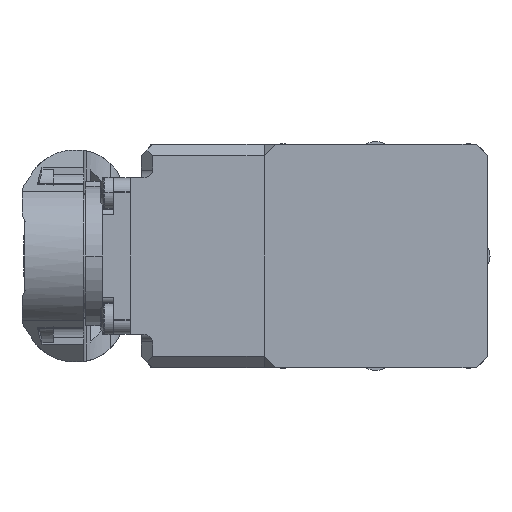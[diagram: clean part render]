
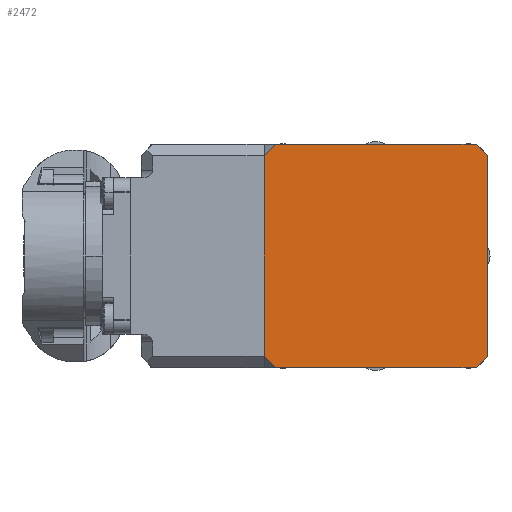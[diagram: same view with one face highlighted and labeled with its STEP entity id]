
A CAD part, left-side view. The second image highlights one B-rep face of the part: STEP entity #2472.
In plain terms, the highlighted planar face has unit normal (-1, 0, 0).
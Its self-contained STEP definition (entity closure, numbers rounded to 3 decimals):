
#438 = VECTOR ( 'NONE', #47579, 1000. ) ;
#833 = ORIENTED_EDGE ( 'NONE', *, *, #62694, .T. ) ;
#1628 = EDGE_CURVE ( 'NONE', #20351, #24766, #43758, .T. ) ;
#2150 = EDGE_LOOP ( 'NONE', ( #5546, #26509, #4052, #20456, #21874, #13051, #833, #24926 ) ) ;
#2472 = ADVANCED_FACE ( 'NONE', ( #57961 ), #41611, .T. ) ;
#4052 = ORIENTED_EDGE ( 'NONE', *, *, #35368, .T. ) ;
#4424 = CARTESIAN_POINT ( 'NONE',  ( -113., 18., -20. ) ) ;
#5546 = ORIENTED_EDGE ( 'NONE', *, *, #40684, .T. ) ;
#6773 = LINE ( 'NONE', #29017, #47453 ) ;
#7179 = VECTOR ( 'NONE', #43565, 1000. ) ;
#7868 = CARTESIAN_POINT ( 'NONE',  ( -113., -18., -20. ) ) ;
#8693 = DIRECTION ( 'NONE',  ( 0., 0.707, 0.707 ) ) ;
#8789 = LINE ( 'NONE', #7868, #7179 ) ;
#9310 = LINE ( 'NONE', #20821, #22885 ) ;
#9983 = CARTESIAN_POINT ( 'NONE',  ( -113., 20., 18. ) ) ;
#11034 = DIRECTION ( 'NONE',  ( -1., 0., 0. ) ) ;
#12753 = VECTOR ( 'NONE', #65816, 1000. ) ;
#13051 = ORIENTED_EDGE ( 'NONE', *, *, #30282, .T. ) ;
#13993 = LINE ( 'NONE', #62831, #438 ) ;
#15026 = CARTESIAN_POINT ( 'NONE',  ( -113., 20., -18. ) ) ;
#18052 = LINE ( 'NONE', #26932, #43618 ) ;
#19611 = CARTESIAN_POINT ( 'NONE',  ( -113., -18., 20. ) ) ;
#20054 = CARTESIAN_POINT ( 'NONE',  ( -113., 18., -20. ) ) ;
#20351 = VERTEX_POINT ( 'NONE', #36570 ) ;
#20456 = ORIENTED_EDGE ( 'NONE', *, *, #38103, .T. ) ;
#20821 = CARTESIAN_POINT ( 'NONE',  ( -113., 20., 18. ) ) ;
#21058 = CARTESIAN_POINT ( 'NONE',  ( -113., 0., 0. ) ) ;
#21874 = ORIENTED_EDGE ( 'NONE', *, *, #24723, .T. ) ;
#22885 = VECTOR ( 'NONE', #30858, 1000. ) ;
#23962 = LINE ( 'NONE', #39267, #35898 ) ;
#24723 = EDGE_CURVE ( 'NONE', #60634, #38752, #13993, .T. ) ;
#24766 = VERTEX_POINT ( 'NONE', #42925 ) ;
#24926 = ORIENTED_EDGE ( 'NONE', *, *, #35501, .T. ) ;
#26509 = ORIENTED_EDGE ( 'NONE', *, *, #1628, .T. ) ;
#26932 = CARTESIAN_POINT ( 'NONE',  ( -113., 20., -18. ) ) ;
#27617 = DIRECTION ( 'NONE',  ( 0., 0., 1. ) ) ;
#29017 = CARTESIAN_POINT ( 'NONE',  ( -113., -18., 20. ) ) ;
#30282 = EDGE_CURVE ( 'NONE', #38752, #48094, #9310, .T. ) ;
#30858 = DIRECTION ( 'NONE',  ( 0., 0., -1. ) ) ;
#35368 = EDGE_CURVE ( 'NONE', #24766, #57286, #23962, .T. ) ;
#35501 = EDGE_CURVE ( 'NONE', #55211, #46139, #55051, .T. ) ;
#35898 = VECTOR ( 'NONE', #8693, 1000. ) ;
#36570 = CARTESIAN_POINT ( 'NONE',  ( -113., -20., -18. ) ) ;
#38103 = EDGE_CURVE ( 'NONE', #57286, #60634, #6773, .T. ) ;
#38752 = VERTEX_POINT ( 'NONE', #9983 ) ;
#39069 = CARTESIAN_POINT ( 'NONE',  ( -113., -20., -18. ) ) ;
#39095 = AXIS2_PLACEMENT_3D ( 'NONE', #21058, #11034, #46683 ) ;
#39267 = CARTESIAN_POINT ( 'NONE',  ( -113., -20., 18. ) ) ;
#40684 = EDGE_CURVE ( 'NONE', #46139, #20351, #8789, .T. ) ;
#40731 = CARTESIAN_POINT ( 'NONE',  ( -113., -18., -20. ) ) ;
#41611 = PLANE ( 'NONE',  #39095 ) ;
#42925 = CARTESIAN_POINT ( 'NONE',  ( -113., -20., 18. ) ) ;
#43565 = DIRECTION ( 'NONE',  ( 0., -0.707, 0.707 ) ) ;
#43618 = VECTOR ( 'NONE', #52379, 1000. ) ;
#43758 = LINE ( 'NONE', #39069, #58940 ) ;
#46139 = VERTEX_POINT ( 'NONE', #40731 ) ;
#46683 = DIRECTION ( 'NONE',  ( 0., 0., 1. ) ) ;
#47453 = VECTOR ( 'NONE', #59623, 1000. ) ;
#47579 = DIRECTION ( 'NONE',  ( 0., 0.707, -0.707 ) ) ;
#48094 = VERTEX_POINT ( 'NONE', #15026 ) ;
#52379 = DIRECTION ( 'NONE',  ( 0., -0.707, -0.707 ) ) ;
#55051 = LINE ( 'NONE', #4424, #12753 ) ;
#55211 = VERTEX_POINT ( 'NONE', #20054 ) ;
#57286 = VERTEX_POINT ( 'NONE', #19611 ) ;
#57961 = FACE_OUTER_BOUND ( 'NONE', #2150, .T. ) ;
#58940 = VECTOR ( 'NONE', #27617, 1000. ) ;
#59623 = DIRECTION ( 'NONE',  ( 0., 1., 0. ) ) ;
#60634 = VERTEX_POINT ( 'NONE', #63304 ) ;
#62694 = EDGE_CURVE ( 'NONE', #48094, #55211, #18052, .T. ) ;
#62831 = CARTESIAN_POINT ( 'NONE',  ( -113., 18., 20. ) ) ;
#63304 = CARTESIAN_POINT ( 'NONE',  ( -113., 18., 20. ) ) ;
#65816 = DIRECTION ( 'NONE',  ( 0., -1., 0. ) ) ;
